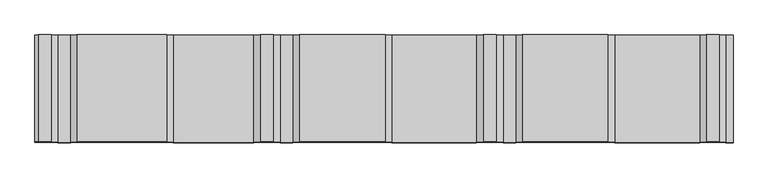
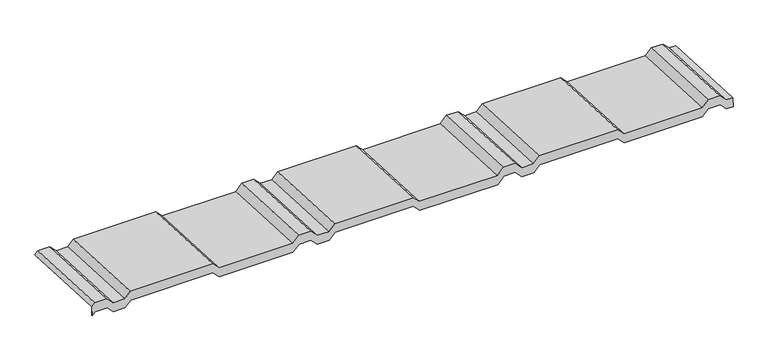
"""IFC4 building model written with IfcOpenShell, lengths in millimetres: proxy geometry, AQUAPLAST - Blachodachówka Alice : Blachodachówka Alice."""

from ifc_helpers import new_model, si_unit, origin, place, context, project, spatial, faceted_brep, source, transform, mapped, element, save


def specialty_equipment_ec8eb796(model_context):
    return source(origin(), model_context, "Body", "Brep", [
        faceted_brep([(-571.7598776, 0.6696996, 23.5766757), (-565.8406904, 0.9640097, 29.4885417), (-543.7088996, 0.9640097, 29.4885417), (-532.2088996, 0.3922139, 18.0027657), (-510.4160064, 0.3922139, 18.0027657), (-499.4160064, 0.939149, 28.9891601), (-345.3126919, 0.939149, 28.9891601), (-333.8126919, 0.3673532, 17.5033841), (-195.7283858, 0.3673532, 17.5033841), (-183.7283858, 0.9640097, 29.4885417), (-161.9160064, 0.9640097, 29.4885417), (-149.9160064, 0.3673532, 17.5033841), (-127.9160064, 0.3673532, 17.5033841), (-116.4160064, 0.939149, 28.9891601), (30.3015709, 0.939149, 28.9891601), (41.8015709, 0.3673532, 17.5033841), (187.7172647, 0.3673532, 17.5033841), (199.7172647, 0.9640097, 29.4885417), (221.5296441, 0.9640097, 29.4885417), (233.5296441, 0.3673532, 17.5033841), (255.5296441, 0.3673532, 17.5033841), (267.0296441, 0.939149, 28.9891601), (413.7472214, 0.939149, 28.9891601), (425.2472214, 0.3673532, 17.5033841), (571.8664164, 0.3673532, 17.5033841), (583.3664164, 0.939149, 28.9891601), (605.0839936, 0.939149, 28.9891601), (616.5839936, 0.3673532, 17.5033841), (629.2401224, 0.3673532, 17.5033841), (629.2401224, -0.4629937, 0.8240399), (616.5839936, -0.4629937, 0.8240399), (605.0839936, 0.1088021, 12.3098159), (583.3664164, 0.1088021, 12.3098159), (571.8664164, -0.4629937, 0.8240399), (425.2472214, -0.4629937, 0.8240399), (413.7472214, 0.1088021, 12.3098159), (267.0296441, 0.1088021, 12.3098159), (255.5296441, -0.4629937, 0.8240399), (233.5296441, -0.4629937, 0.8240399), (221.5296441, 0.1336628, 12.8091974), (199.7172647, 0.1336628, 12.8091974), (187.7172647, -0.4629937, 0.8240399), (41.8015709, -0.4629937, 0.8240399), (30.3015709, 0.1088021, 12.3098159), (-116.4160064, 0.1088021, 12.3098159), (-127.9160064, -0.4629937, 0.8240399), (-149.9160064, -0.4629937, 0.8240399), (-161.9160064, 0.1336628, 12.8091974), (-183.7283858, 0.1336628, 12.8091974), (-195.7283858, -0.4629937, 0.8240399), (-333.8126919, -0.4629937, 0.8240399), (-345.3126919, 0.1088021, 12.3098159), (-499.4160064, 0.1088021, 12.3098159), (-510.4160064, -0.438133, 1.3234215), (-532.2088996, -0.438133, 1.3234215), (-543.7088996, 0.1336628, 12.8091974), (-565.8406904, 0.1336628, 12.8091974), (-571.7598776, -0.1606473, 6.8973315), (-566.0477972, -0.0098927, 30.0376446), (-571.7598776, -0.2939052, 24.3326293), (-571.7598776, -1.1594105, 6.9470529), (-565.8406904, -0.8651003, 12.8589188), (-543.7088996, -0.8651003, 12.8589188), (-532.2088996, -1.4368961, 1.3731429), (-510.4160064, -1.4368961, 1.3731429), (-499.4160064, -0.889961, 12.3595373), (-345.3126919, -0.889961, 12.3595373), (-333.8126919, -1.4617568, 0.8737613), (-195.7283858, -1.4617568, 0.8737613), (-183.7283858, -0.8651003, 12.8589188), (-161.9160064, -0.8651003, 12.8589188), (-149.9160064, -1.4617568, 0.8737613), (-127.9160064, -1.4617568, 0.8737613), (-116.4160064, -0.889961, 12.3595373), (30.3015709, -0.889961, 12.3595373), (41.8015709, -1.4617568, 0.8737613), (187.7172647, -1.4617568, 0.8737613), (199.7172647, -0.8651003, 12.8589188), (221.5296441, -0.8651003, 12.8589188), (233.5296441, -1.4617568, 0.8737613), (255.5296441, -1.4617568, 0.8737613), (267.0296441, -0.889961, 12.3595373), (413.7472214, -0.889961, 12.3595373), (425.2472214, -1.4617568, 0.8737613), (571.8664164, -1.4617568, 0.8737613), (583.3664164, -0.889961, 12.3595373), (605.0839936, -0.889961, 12.3595373), (616.5839936, -1.4617568, 0.8737613), (629.2401224, -1.4617568, 0.8737613), (629.2401224, -0.6065492, 18.0524871), (616.7911004, -0.6065492, 18.0524871), (605.2911004, -0.0347534, 29.538263), (583.1593096, -0.0347534, 29.538263), (571.6593096, -0.6065492, 18.0524871), (425.4543281, -0.6065492, 18.0524871), (413.9543281, -0.0347534, 29.538263), (266.8225373, -0.0347534, 29.538263), (255.3225373, -0.6065492, 18.0524871), (233.7367509, -0.6065492, 18.0524871), (221.7367509, -0.0098927, 30.0376446), (199.5101579, -0.0098927, 30.0376446), (187.5101579, -0.6065492, 18.0524871), (42.0086777, -0.6065492, 18.0524871), (30.5086777, -0.0347534, 29.538263), (-116.6231132, -0.0347534, 29.538263), (-128.1231132, -0.6065492, 18.0524871), (-149.7088996, -0.6065492, 18.0524871), (-161.7088996, -0.0098927, 30.0376446), (-183.9354926, -0.0098927, 30.0376446), (-195.9354926, -0.6065492, 18.0524871), (-333.6055852, -0.6065492, 18.0524871), (-345.1055852, -0.0347534, 29.538263), (-499.6231132, -0.0347534, 29.538263), (-510.6231132, -0.5816885, 18.5518686), (-532.0017928, -0.5816885, 18.5518686), (-543.5017928, -0.0098927, 30.0376446), (-510.6231132, 184.1894901, 9.3534145), (-532.0017928, 184.1894901, 9.3534145), (-499.6231132, 184.7364252, 20.3398089), (-345.1055852, 184.7364252, 20.3398089), (-333.6055852, 184.1646294, 8.8540329), (-195.9354926, 184.1646294, 8.8540329), (-183.9354926, 184.7612859, 20.8391904), (-161.7088996, 184.7612859, 20.8391904), (-149.7088996, 184.1646294, 8.8540329), (-128.1231132, 184.1646294, 8.8540329), (-116.6231132, 184.7364252, 20.3398089), (30.5086777, 184.7364252, 20.3398089), (42.0086777, 184.1646294, 8.8540329), (187.5101579, 184.1646294, 8.8540329), (199.5101579, 184.7612859, 20.8391904), (221.7367509, 184.7612859, 20.8391904), (233.7367509, 184.1646294, 8.8540329), (255.3225373, 184.1646294, 8.8540329), (266.8225373, 184.7364252, 20.3398089), (413.9543281, 184.7364252, 20.3398089), (425.4543281, 184.1646294, 8.8540329), (571.6593096, 184.1646294, 8.8540329), (583.1593096, 184.7364252, 20.3398089), (605.2911004, 184.7364252, 20.3398089), (616.7911004, 184.1646294, 8.8540329), (629.2401224, 184.1646294, 8.8540329), (629.2401224, 184.1397687, 8.3546514), (616.5839936, 184.1397687, 8.3546514), (605.0839936, 184.7115645, 19.8404273), (583.3664164, 184.7115645, 19.8404273), (571.8664164, 184.1397687, 8.3546514), (425.2472214, 184.1397687, 8.3546514), (413.7472214, 184.7115645, 19.8404273), (267.0296441, 184.7115645, 19.8404273), (255.5296441, 184.1397687, 8.3546514), (233.5296441, 184.1397687, 8.3546514), (221.5296441, 184.7364252, 20.3398089), (199.7172647, 184.7364252, 20.3398089), (187.7172647, 184.1397687, 8.3546514), (41.8015709, 184.1397687, 8.3546514), (30.3015709, 184.7115645, 19.8404273), (-116.4160064, 184.7115645, 19.8404273), (-127.9160064, 184.1397687, 8.3546514), (-149.9160064, 184.1397687, 8.3546514), (-161.9160064, 184.7364252, 20.3398089), (-183.7283858, 184.7364252, 20.3398089), (-195.7283858, 184.1397687, 8.3546514), (-333.8126919, 184.1397687, 8.3546514), (-345.3126919, 184.7115645, 19.8404273), (-499.4160064, 184.7115645, 19.8404273), (-510.4160064, 184.1646294, 8.8540329), (-532.2088996, 184.1646294, 8.8540329), (-543.7088996, 184.7364252, 20.3398089), (-565.8406904, 184.7364252, 20.3398089), (-571.7598776, 184.4421151, 14.4279429), (-566.0477972, 184.7612859, 20.8391904), (-571.7598776, 184.4772734, 15.1341751), (-543.5017928, 184.7612859, 20.8391904)], [[[0, 1, 2, 3, 4, 5, 6, 7, 8, 9, 10, 11, 12, 13, 14, 15, 16, 17, 18, 19, 20, 21, 22, 23, 24, 25, 26, 27, 28, 29, 30, 31, 32, 33, 34, 35, 36, 37, 38, 39, 40, 41, 42, 43, 44, 45, 46, 47, 48, 49, 50, 51, 52, 53, 54, 55, 56, 57]], [[58, 59, 60, 61, 62, 63, 64, 65, 66, 67, 68, 69, 70, 71, 72, 73, 74, 75, 76, 77, 78, 79, 80, 81, 82, 83, 84, 85, 86, 87, 88, 89, 90, 91, 92, 93, 94, 95, 96, 97, 98, 99, 100, 101, 102, 103, 104, 105, 106, 107, 108, 109, 110, 111, 112, 113, 114, 115]], [[113, 116, 117, 114]], [[112, 118, 116, 113]], [[111, 119, 118, 112]], [[110, 120, 119, 111]], [[109, 121, 120, 110]], [[108, 122, 121, 109]], [[107, 123, 122, 108]], [[106, 124, 123, 107]], [[105, 125, 124, 106]], [[104, 126, 125, 105]], [[103, 127, 126, 104]], [[102, 128, 127, 103]], [[101, 129, 128, 102]], [[100, 130, 129, 101]], [[99, 131, 130, 100]], [[98, 132, 131, 99]], [[97, 133, 132, 98]], [[96, 134, 133, 97]], [[95, 135, 134, 96]], [[94, 136, 135, 95]], [[93, 137, 136, 94]], [[92, 138, 137, 93]], [[91, 139, 138, 92]], [[90, 140, 139, 91]], [[90, 89, 141, 140]], [[142, 28, 27, 143]], [[143, 27, 26, 144]], [[144, 26, 25, 145]], [[145, 25, 24, 146]], [[146, 24, 23, 147]], [[147, 23, 22, 148]], [[148, 22, 21, 149]], [[149, 21, 20, 150]], [[150, 20, 19, 151]], [[151, 19, 18, 152]], [[152, 18, 17, 153]], [[153, 17, 16, 154]], [[154, 16, 15, 155]], [[155, 15, 14, 156]], [[156, 14, 13, 157]], [[157, 13, 12, 158]], [[158, 12, 11, 159]], [[159, 11, 10, 160]], [[160, 10, 9, 161]], [[161, 9, 8, 162]], [[162, 8, 7, 163]], [[163, 7, 6, 164]], [[164, 6, 5, 165]], [[165, 5, 4, 166]], [[166, 4, 3, 167]], [[167, 3, 2, 168]], [[168, 2, 1, 169]], [[169, 1, 0, 170]], [[171, 172, 59, 58]], [[115, 173, 171, 58]], [[114, 117, 173, 115]], [[87, 30, 29, 88]], [[86, 31, 30, 87]], [[85, 32, 31, 86]], [[84, 33, 32, 85]], [[83, 34, 33, 84]], [[82, 35, 34, 83]], [[81, 36, 35, 82]], [[80, 37, 36, 81]], [[79, 38, 37, 80]], [[78, 39, 38, 79]], [[77, 40, 39, 78]], [[76, 41, 40, 77]], [[75, 42, 41, 76]], [[74, 43, 42, 75]], [[73, 44, 43, 74]], [[72, 45, 44, 73]], [[71, 46, 45, 72]], [[70, 47, 46, 71]], [[69, 48, 47, 70]], [[68, 49, 48, 69]], [[67, 50, 49, 68]], [[66, 51, 50, 67]], [[65, 52, 51, 66]], [[64, 53, 52, 65]], [[63, 54, 53, 64]], [[62, 55, 54, 63]], [[61, 56, 55, 62]], [[60, 57, 56, 61]], [[60, 59, 172, 170, 0, 57]], [[28, 142, 141, 89, 88, 29]], [[116, 118, 119, 120, 121, 122, 123, 124, 125, 126, 127, 128, 129, 130, 131, 132, 133, 134, 135, 136, 137, 138, 139, 140, 141, 142, 143, 144, 145, 146, 147, 148, 149, 150, 151, 152, 153, 154, 155, 156, 157, 158, 159, 160, 161, 162, 163, 164, 165, 166, 167, 168, 169, 170, 172, 171, 173, 117]]]),
    ])


if __name__ == "__main__":
    model = new_model("IFC4")
    model_context = context("Model", 3, world=origin())
    ifc_project = project(units=[si_unit("LENGTHUNIT", "METRE", prefix="MILLI")], contexts=[model_context])
    site = spatial("IfcSite", under=ifc_project)
    building = spatial("IfcBuilding", under=site)
    placement = place(None, origin())
    specialty_equipment_shape = specialty_equipment_ec8eb796(model_context)
    element("IfcBuildingElementProxy", 1, Name="AQUAPLAST - Blachodachówka Alice : Blachodachówka Alice", ObjectType="AQUAPLAST - Blachodachówka Alice : Blachodachówka Alice", at=placement, inside=building, context=model_context, shape_type="MappedRepresentation", body=[
        mapped(specialty_equipment_shape, transform((0.0, 0.0, 0.0), x_axis=(1.0, 0.0, 0.0), y_axis=(0.0, 1.0, 0.0), z_axis=(0.0, 0.0, 1.0))),
    ])
    save(model, "model.ifc")
